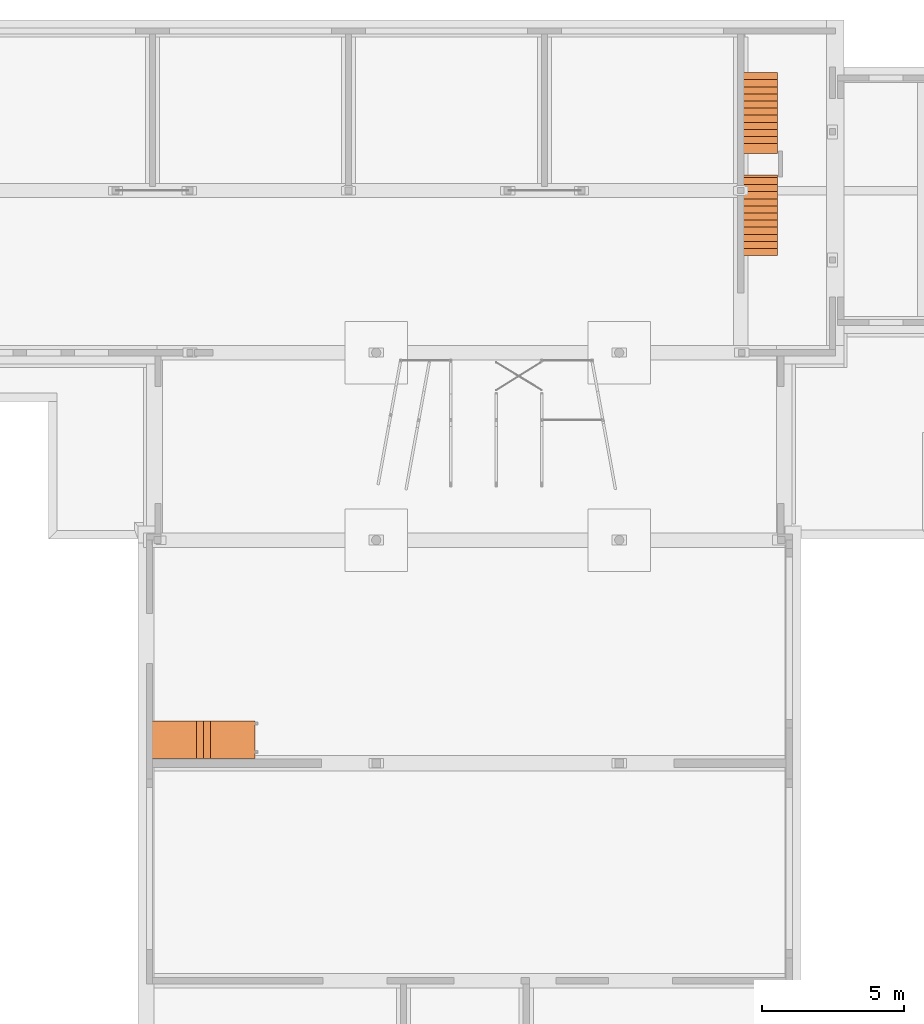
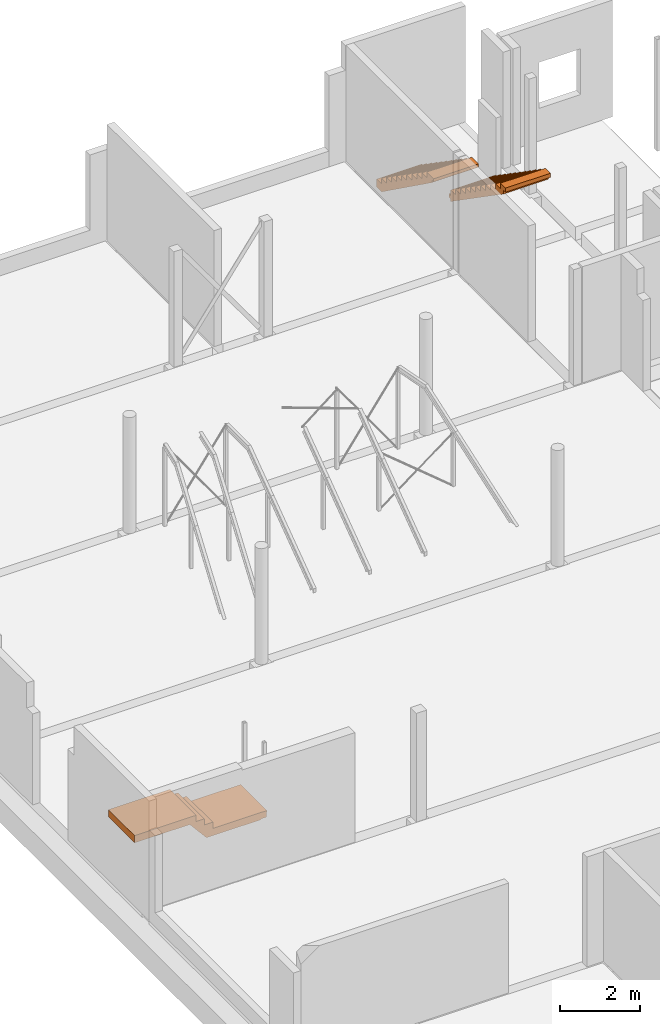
# One storey, part 17 of 17: 3 proxies.
"""IFC2X3 building model written with IfcOpenShell, lengths in millimetres."""

from ifc_helpers import new_model, entity, si_unit, converted_unit, derived_unit, direction, frame, origin, place, context, subcontext, project, spatial, polyline, outline, extrude, source, transform, mapped, material, type_object, type_shapes, element, save


model = new_model("IFC2X3")

# Units and contexts
model_context = context("Model", 3, precision=0.01, world=origin(), true_north=direction((6.123031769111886e-17, 1.0)))
body_context = subcontext(model_context, "Body", "Model", "MODEL_VIEW")
ifc_project = project(units=[si_unit("LENGTHUNIT", "METRE", prefix="MILLI"), si_unit("AREAUNIT", "SQUARE_METRE", prefix="MILLI"), si_unit("VOLUMEUNIT", "CUBIC_METRE"), converted_unit("PLANEANGLEUNIT", "DEGREE", entity("IfcPlaneAngleMeasure", 0.017453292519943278), si_unit("PLANEANGLEUNIT", "RADIAN"), dimensions=[0, 0, 0, 0, 0, 0, 0]), si_unit("MASSUNIT", "GRAM", prefix="KILO"), derived_unit("MASSDENSITYUNIT", [(si_unit("MASSUNIT", "GRAM", prefix="KILO"), 1), (si_unit("LENGTHUNIT", "METRE"), -3)]), derived_unit("IONCONCENTRATIONUNIT", [(si_unit("MASSUNIT", "GRAM", prefix="KILO"), 1), (si_unit("LENGTHUNIT", "METRE"), -3)]), derived_unit("MOMENTOFINERTIAUNIT", [(si_unit("LENGTHUNIT", "METRE"), 4)]), si_unit("TIMEUNIT", "SECOND"), si_unit("FREQUENCYUNIT", "HERTZ"), si_unit("THERMODYNAMICTEMPERATUREUNIT", "DEGREE_CELSIUS"), derived_unit("THERMALTRANSMITTANCEUNIT", [(si_unit("MASSUNIT", "GRAM", prefix="KILO"), 1), (si_unit("THERMODYNAMICTEMPERATUREUNIT", "KELVIN"), -1), (si_unit("TIMEUNIT", "SECOND"), -3)]), derived_unit("THERMALCONDUCTANCEUNIT", [(si_unit("MASSUNIT", "GRAM", prefix="KILO"), 1), (si_unit("THERMODYNAMICTEMPERATUREUNIT", "KELVIN"), -1), (si_unit("TIMEUNIT", "SECOND"), -3), (si_unit("LENGTHUNIT", "METRE"), 1)]), derived_unit("VOLUMETRICFLOWRATEUNIT", [(si_unit("LENGTHUNIT", "METRE", prefix="DECI"), 3), (si_unit("TIMEUNIT", "SECOND"), -1)]), derived_unit("MASSFLOWRATEUNIT", [(si_unit("MASSUNIT", "GRAM", prefix="KILO"), 1), (si_unit("TIMEUNIT", "SECOND"), -1)]), derived_unit("ROTATIONALFREQUENCYUNIT", [(si_unit("TIMEUNIT", "SECOND"), -1)]), si_unit("ELECTRICCURRENTUNIT", "AMPERE"), si_unit("ELECTRICVOLTAGEUNIT", "VOLT"), si_unit("POWERUNIT", "WATT"), si_unit("FORCEUNIT", "NEWTON", prefix="KILO"), si_unit("ILLUMINANCEUNIT", "LUX"), si_unit("LUMINOUSFLUXUNIT", "LUMEN"), si_unit("LUMINOUSINTENSITYUNIT", "CANDELA"), si_unit("ENERGYUNIT", "JOULE"), derived_unit("USERDEFINED", [(si_unit("MASSUNIT", "GRAM", prefix="KILO"), -1), (si_unit("LENGTHUNIT", "METRE"), -2), (si_unit("TIMEUNIT", "SECOND"), 3), (si_unit("LUMINOUSFLUXUNIT", "LUMEN"), 1)]), derived_unit("USERDEFINED", [(si_unit("MASSUNIT", "GRAM", prefix="KILO"), 1), (si_unit("TIMEUNIT", "SECOND"), -3), (si_unit("LENGTHUNIT", "METRE"), 3), (si_unit("ELECTRICCURRENTUNIT", "AMPERE"), -2)]), derived_unit("SOUNDPOWERUNIT", [(si_unit("MASSUNIT", "GRAM", prefix="KILO"), 1), (si_unit("TIMEUNIT", "SECOND"), -3), (si_unit("LENGTHUNIT", "METRE"), 2)]), derived_unit("SOUNDPRESSUREUNIT", [(si_unit("MASSUNIT", "GRAM", prefix="KILO"), 1), (si_unit("LENGTHUNIT", "METRE"), -1), (si_unit("TIMEUNIT", "SECOND"), -2)]), derived_unit("LINEARVELOCITYUNIT", [(si_unit("LENGTHUNIT", "METRE"), 1), (si_unit("TIMEUNIT", "SECOND"), -1)]), si_unit("PRESSUREUNIT", "PASCAL"), derived_unit("USERDEFINED", [(si_unit("MASSUNIT", "GRAM", prefix="KILO"), 1), (si_unit("LENGTHUNIT", "METRE"), -2), (si_unit("TIMEUNIT", "SECOND"), -2)]), derived_unit("LINEARFORCEUNIT", [(si_unit("MASSUNIT", "GRAM", prefix="KILO"), 1), (si_unit("TIMEUNIT", "SECOND"), -2)]), derived_unit("PLANARFORCEUNIT", [(si_unit("MASSUNIT", "GRAM", prefix="KILO"), 1), (si_unit("LENGTHUNIT", "METRE"), -1), (si_unit("TIMEUNIT", "SECOND"), -2)]), derived_unit("SPECIFICHEATCAPACITYUNIT", [(si_unit("THERMODYNAMICTEMPERATUREUNIT", "KELVIN"), -1), (si_unit("LENGTHUNIT", "METRE"), 2), (si_unit("TIMEUNIT", "SECOND"), -2)]), derived_unit("HEATFLUXDENSITYUNIT", [(si_unit("MASSUNIT", "GRAM", prefix="KILO"), 1), (si_unit("TIMEUNIT", "SECOND"), -3)]), derived_unit("HEATINGVALUEUNIT", [(si_unit("LENGTHUNIT", "METRE"), 2), (si_unit("TIMEUNIT", "SECOND"), -2)]), derived_unit("VAPORPERMEABILITYUNIT", [(si_unit("LENGTHUNIT", "METRE"), -1), (si_unit("TIMEUNIT", "SECOND"), 1)]), derived_unit("DYNAMICVISCOSITYUNIT", [(si_unit("MASSUNIT", "GRAM", prefix="KILO"), 1), (si_unit("TIMEUNIT", "SECOND"), -1), (si_unit("LENGTHUNIT", "METRE"), -1)]), derived_unit("THERMALEXPANSIONCOEFFICIENTUNIT", [(si_unit("THERMODYNAMICTEMPERATUREUNIT", "KELVIN"), -1)]), derived_unit("MODULUSOFELASTICITYUNIT", [(si_unit("MASSUNIT", "GRAM", prefix="KILO"), 1), (si_unit("LENGTHUNIT", "METRE"), -1), (si_unit("TIMEUNIT", "SECOND"), -2)]), derived_unit("ISOTHERMALMOISTURECAPACITYUNIT", [(si_unit("MASSUNIT", "GRAM", prefix="KILO"), -1), (si_unit("LENGTHUNIT", "METRE"), 3)]), derived_unit("MOISTUREDIFFUSIVITYUNIT", [(si_unit("TIMEUNIT", "SECOND"), -1), (si_unit("LENGTHUNIT", "METRE"), 2)]), derived_unit("MASSPERLENGTHUNIT", [(si_unit("MASSUNIT", "GRAM", prefix="KILO"), 1), (si_unit("LENGTHUNIT", "METRE"), -1)]), derived_unit("THERMALRESISTANCEUNIT", [(si_unit("MASSUNIT", "GRAM", prefix="KILO"), -1), (si_unit("TIMEUNIT", "SECOND"), 3), (si_unit("THERMODYNAMICTEMPERATUREUNIT", "KELVIN"), 1)]), derived_unit("ACCELERATIONUNIT", [(si_unit("LENGTHUNIT", "METRE"), 1), (si_unit("TIMEUNIT", "SECOND"), -2)]), derived_unit("ANGULARVELOCITYUNIT", [(si_unit("TIMEUNIT", "SECOND"), -1), (si_unit("PLANEANGLEUNIT", "RADIAN"), 1)]), derived_unit("LINEARSTIFFNESSUNIT", [(si_unit("MASSUNIT", "GRAM", prefix="KILO"), 1), (si_unit("TIMEUNIT", "SECOND"), -2)]), derived_unit("WARPINGCONSTANTUNIT", [(si_unit("LENGTHUNIT", "METRE"), 6)]), derived_unit("LINEARMOMENTUNIT", [(si_unit("MASSUNIT", "GRAM", prefix="KILO"), 1), (si_unit("LENGTHUNIT", "METRE"), 1), (si_unit("TIMEUNIT", "SECOND"), -2)]), derived_unit("TORQUEUNIT", [(si_unit("MASSUNIT", "GRAM", prefix="KILO"), 1), (si_unit("LENGTHUNIT", "METRE"), 2), (si_unit("TIMEUNIT", "SECOND"), -2)])], contexts=[model_context])

# Site, building, storey
site_placement = place(None, origin())
site = spatial("IfcSite", under=ifc_project, at=site_placement, Name="Default", CompositionType="ELEMENT")
building_placement = place(site_placement, origin())
building = spatial("IfcBuilding", under=site, at=building_placement, CompositionType="ELEMENT")
storey_placement = place(building_placement, frame((0.0, 0.0, -70.0)))
storey = spatial("IfcBuildingStorey", under=building, at=storey_placement, Name="F1 begg (bk ruwe vloer)", CompositionType="ELEMENT", Elevation=-69.99999999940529)

# Proxies
ifc_material = material(Name="Beton, prefab C35/45")
building_element_proxy_type_1 = type_object("IfcBuildingElementProxyType", Name="Generic Models 1:Generic Models 1", PredefinedType="NOTDEFINED", material=ifc_material)
shared_shape_1 = source(origin(), body_context, "Body", "SweptSolid", [
    extrude(outline(polyline([(-137.38013180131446, 128.95363965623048), (1425.5605964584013, 128.95363965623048), (1425.5605964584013, 162.7036396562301), (1410.5605964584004, 177.70363965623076), (1410.5605964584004, 326.0745224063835), (1265.9397137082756, 326.07452240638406), (1243.0605964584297, 348.95363965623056), (-320.53713944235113, 348.95363965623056), (-800.562421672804, -221.04636034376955), (-2392.1275465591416, -221.04636034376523), (-2392.1275465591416, -441.04636034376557), (-617.4054140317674, -441.04636034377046), (-617.4054140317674, -251.04636034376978), (-383.1584750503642, -251.04636034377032), (-383.1584750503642, -61.04636034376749), (-137.38013180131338, -61.0463603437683), (-137.38013180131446, 128.95363965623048)])), frame((9003.128327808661, 17669.605013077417, 1648.952663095), z_axis=(0.0, 1.0, 0.0), x_axis=(1.0, 0.0, 0.0)), (0.0, 0.0, 1.0), 1311.2000000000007),
])
type_shapes(building_element_proxy_type_1, [shared_shape_1])
proxy_1_placement = place(storey_placement, frame((0.0, 0.0, 70.0)))
element("IfcBuildingElementProxy", 1, at=proxy_1_placement, inside=storey, type_object=building_element_proxy_type_1, material=ifc_material, Name="Generic Models 1:Generic Models 1", ObjectType="Generic Models 1:Generic Models 1", context=body_context, shape_type="MappedRepresentation", body=[
    mapped(shared_shape_1, transform((0.0, 0.0, 0.0), scale=1.0)),
])
building_element_proxy_type_2 = type_object("IfcBuildingElementProxyType", Name="Generic Models 4:Generic Models 4", PredefinedType="NOTDEFINED", material=ifc_material)
shared_shape_2 = source(origin(), body_context, "Body", "SweptSolid", [
    extrude(outline(polyline([(-921.1080000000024, -1270.6666666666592), (-748.4080000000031, -1270.6666666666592), (-748.4080000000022, -1020.6666666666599), (-575.7080000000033, -1020.6666666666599), (-575.7080000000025, -770.6666666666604), (-403.0080000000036, -770.6666666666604), (-403.00800000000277, -520.666666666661), (-230.3080000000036, -520.666666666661), (-230.30800000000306, -270.66666666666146), (-57.608000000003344, -270.66666666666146), (-57.608000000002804, -20.666666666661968), (115.09199999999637, -20.666666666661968), (115.09199999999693, 229.33333333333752), (287.79199999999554, 229.33333333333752), (287.7919999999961, 479.333333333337), (460.4919999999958, 479.333333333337), (460.4919999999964, 729.3333333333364), (633.191999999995, 729.3333333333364), (633.1919999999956, 979.333333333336), (805.8919999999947, 979.333333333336), (805.8919999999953, 1229.3333333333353), (978.5919999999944, 1229.3333333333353), (978.591999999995, 1479.3333333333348), (853.5919999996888, 1479.3333333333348), (853.5919999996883, 1379.3333333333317), (737.2319999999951, 1379.3333333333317), (-1100.8080000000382, -1270.6666666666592), (-1016.7079999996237, -1270.6666666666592), (-1016.707999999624, -1360.6666666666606), (-921.1080000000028, -1360.6666666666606), (-921.1080000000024, -1270.6666666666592)])), frame((27524.97952010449, 36833.90653839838, 2821.4080000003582), z_axis=(1.0, 0.0, 0.0), x_axis=(0.0, 0.0, 1.0)), (0.0, 0.0, 1.0), 1299.999999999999),
])
type_shapes(building_element_proxy_type_2, [shared_shape_2])
proxy_2_placement = place(storey_placement, frame((0.0, 0.0, 70.0)))
element("IfcBuildingElementProxy", 2, at=proxy_2_placement, inside=storey, type_object=building_element_proxy_type_2, material=ifc_material, Name="Generic Models 4:Generic Models 4", ObjectType="Generic Models 4:Generic Models 4", context=body_context, shape_type="MappedRepresentation", body=[
    mapped(shared_shape_2, transform((0.0, 0.0, 0.0), scale=1.0)),
])
building_element_proxy_type_3 = type_object("IfcBuildingElementProxyType", Name="Generic Models 5:Generic Models 4", PredefinedType="NOTDEFINED", material=ifc_material)
shared_shape_3 = source(origin(), body_context, "Body", "SweptSolid", [
    extrude(outline(polyline([(-1488.5714285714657, -894.8935176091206), (-1488.5714285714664, -1137.5935176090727), (-1238.5714285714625, -1137.593517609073), (1261.42857142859, 659.524975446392), (1261.4285714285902, 737.1064823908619), (1351.4285714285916, 737.1064823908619), (1351.4285714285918, 832.1064823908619), (1011.4285714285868, 832.1064823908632), (1011.4285714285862, 659.4064823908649), (761.4285714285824, 659.4064823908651), (761.4285714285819, 486.70648239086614), (511.428571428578, 486.7064823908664), (511.42857142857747, 314.0064823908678), (261.42857142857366, 314.0064823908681), (261.4285714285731, 141.30648239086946), (11.42857142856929, 141.30648239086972), (11.428571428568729, -31.393517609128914), (-238.57142857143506, -31.393517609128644), (-238.57142857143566, -204.09351760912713), (-488.5714285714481, -204.09351760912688), (-488.5714285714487, -376.79351760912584), (-738.5714285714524, -376.79351760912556), (-738.571428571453, -549.493517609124), (-988.5714285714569, -549.493517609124), (-988.5714285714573, -722.1935176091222), (-1238.5714285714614, -722.1935176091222), (-1238.5714285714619, -894.8935176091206), (-1488.5714285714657, -894.8935176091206)])), frame((27524.97952010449, 40306.00177649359, 1067.5935176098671), z_axis=(-1.0, 0.0, 0.0), x_axis=(0.0, -1.0, 0.0)), (0.0, 0.0, -1.0), 1299.999999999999),
])
type_shapes(building_element_proxy_type_3, [shared_shape_3])
proxy_3_placement = place(storey_placement, frame((0.0, 0.0, 70.0)))
element("IfcBuildingElementProxy", 3, at=proxy_3_placement, inside=storey, type_object=building_element_proxy_type_3, material=ifc_material, Name="Generic Models 5:Generic Models 4", ObjectType="Generic Models 5:Generic Models 4", context=body_context, shape_type="MappedRepresentation", body=[
    mapped(shared_shape_3, transform((0.0, 0.0, 0.0), scale=1.0)),
])

save(model, "model.ifc")
